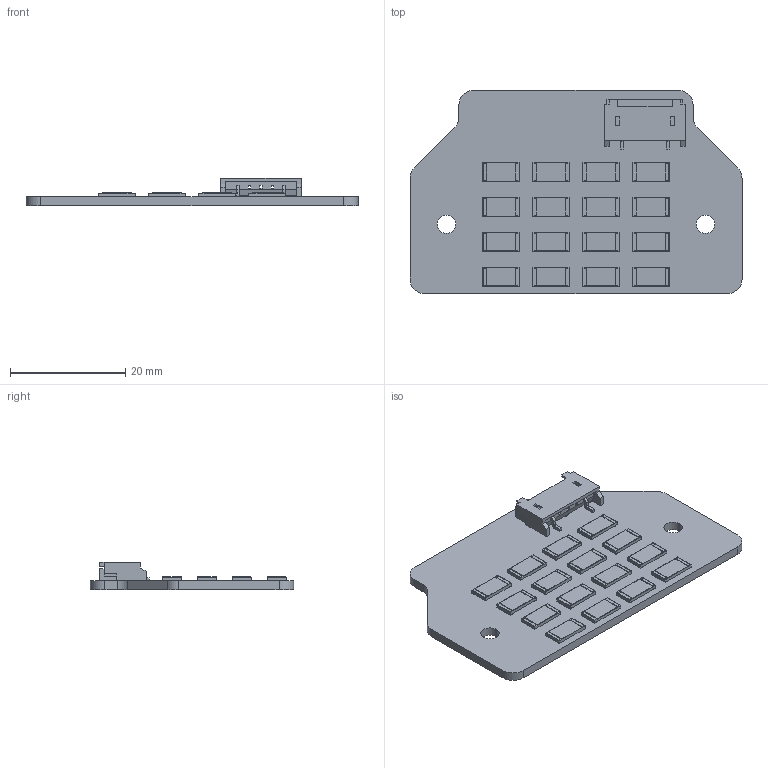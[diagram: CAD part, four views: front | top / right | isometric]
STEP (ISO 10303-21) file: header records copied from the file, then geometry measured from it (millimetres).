
FILE_DESCRIPTION(/* description */ ('PCB Design'),/* implementation_level */ '2;1');
FILE_NAME(/* name */ 'DischargePCB-V0-3',/* time_stamp */ '2020-11-02T16:53:29-06:00',/* author */ (''),/* organization */ (''),/* preprocessor_version */ 'ST-DEVELOPER v16',/* originating_system */ 'allegro_17.2S059',/* authorisation */ '');
FILE_SCHEMA (('AUTOMOTIVE_DESIGN { 1 0 10303 214 3 1 1 }'));
Length unit declared in the file: millimetre
Products named in the file (10): DISCHARGEPCB-V0-3; BOARD_OUTLINE; COMPONENTS; CON_JST-BHS-8MM-2PIN; RESC6432X70N; SM02(8.0)B-BHS-1-TB; ASSEMBLY; COMPOUND002; COMPOUND001; COMPOUND
Assembly tree (24 placements, depth 5):
  DISCHARGEPCB-V0-3
    BOARD_OUTLINE
    COMPONENTS
      CON_JST-BHS-8MM-2PIN
        SM02(8.0)B-BHS-1-TB
      RESC6432X70N  x16
        ASSEMBLY
          COMPOUND002
          COMPOUND001
          COMPOUND
Bounding box: 57.66 x 35.31 x 4.77 mm (x, y, z)
Volume: 365.4 mm3; surface area: 5701.1 mm2
Topology: 49 solids, 50 shells, 980 faces, 2567 edges, 1686 vertices
Faces by surface type: plane 766, cylinder 214
Entity records: 11060 total; most frequent: CARTESIAN_POINT 2573, DIRECTION 1204, ORIENTED_EDGE 1108, VECTOR 685, LINE 685, EDGE_CURVE 557, VERTEX_POINT 372, AXIS2_PLACEMENT_3D 315
